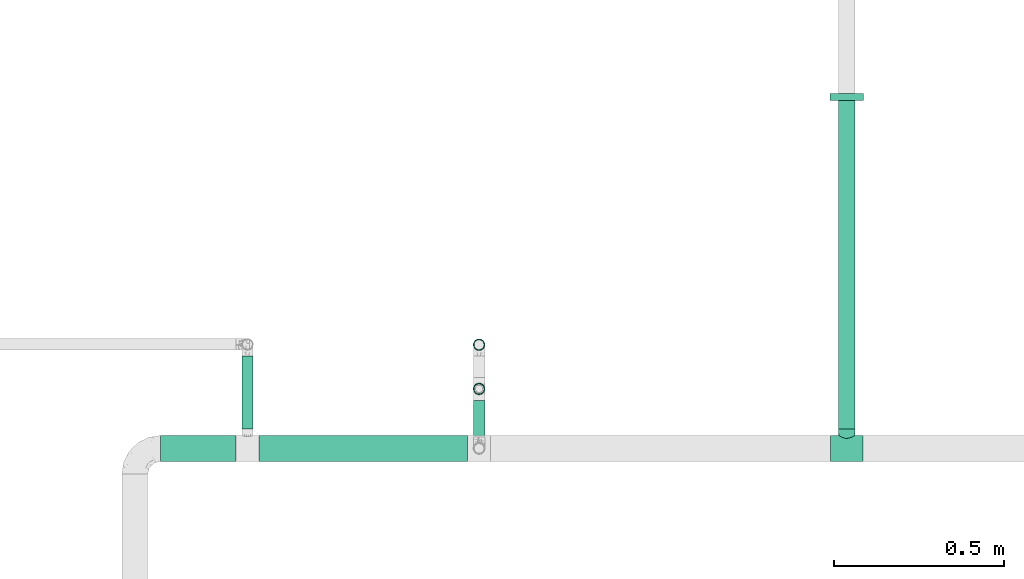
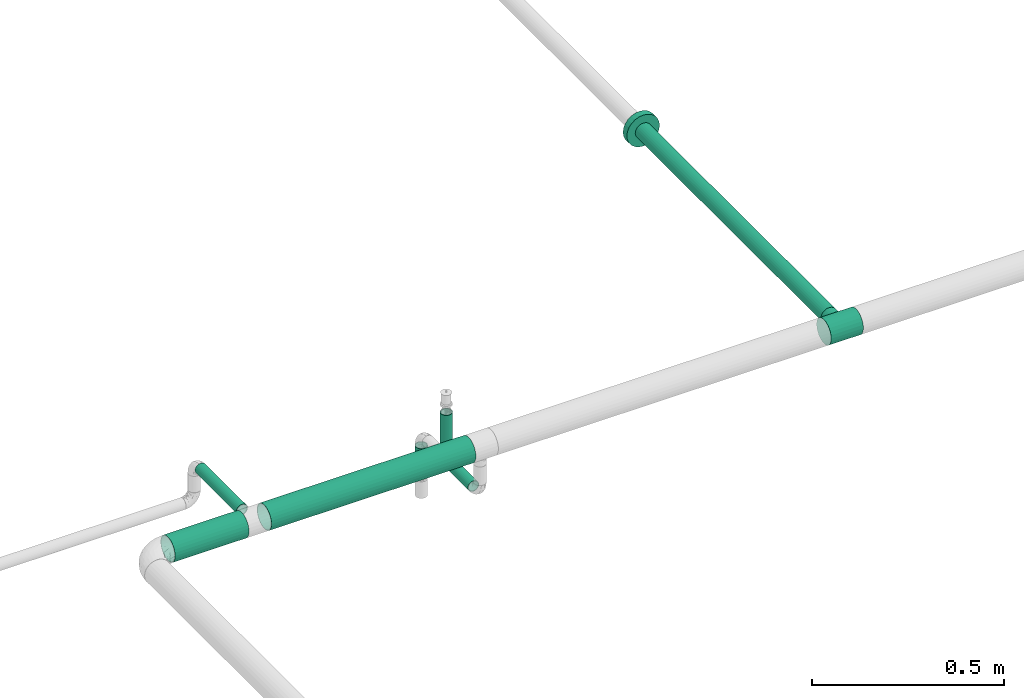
# One storey, part 12 of 157: 7 flow segments, 2 flow fittings.
"""IFC2X3 building model written with IfcOpenShell, lengths in millimetres."""

from ifc_helpers import new_model, entity, si_unit, converted_unit, derived_unit, direction, frame, origin_with_axes, origin_2d_with_axis, place, context, subcontext, project, spatial, hollow_circle, extrude, open_shell, surface_model, source, transform, mapped, type_object, element, save


model = new_model("IFC2X3")

# Units and contexts
model_context = context("Model", 3, precision=0.01, world=frame((0.0, 4.29681676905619e-09, 0.0)), true_north=direction((4.01073788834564e-13, 1.0)))
plan_context = context("Plan", 3, precision=0.01, world=frame((0.0, 4.29681676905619e-09, 0.0)), true_north=direction((4.01073788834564e-13, 1.0)))
body_context = subcontext(model_context, "Body", "Model", "MODEL_VIEW")
ifc_project = project(units=[converted_unit("PLANEANGLEUNIT", "DEGREE", entity("IfcPositiveLengthMeasure", 0.0174532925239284), si_unit("PLANEANGLEUNIT", "RADIAN"), dimensions=[0, 0, 0, 0, 0, 0, 0]), si_unit("AREAUNIT", "SQUARE_METRE"), si_unit("LENGTHUNIT", "METRE", prefix="MILLI"), si_unit("MASSUNIT", "GRAM", prefix="KILO"), si_unit("POWERUNIT", "WATT"), si_unit("PRESSUREUNIT", "PASCAL"), si_unit("FORCEUNIT", "NEWTON", prefix="KILO"), si_unit("ELECTRICCURRENTUNIT", "AMPERE"), si_unit("THERMODYNAMICTEMPERATUREUNIT", "DEGREE_CELSIUS"), si_unit("TIMEUNIT", "SECOND"), si_unit("VOLUMEUNIT", "CUBIC_METRE"), derived_unit("LINEARVELOCITYUNIT", [(si_unit("LENGTHUNIT", "METRE"), 1), (si_unit("TIMEUNIT", "SECOND"), -1)]), derived_unit("VOLUMETRICFLOWRATEUNIT", [(si_unit("VOLUMEUNIT", "CUBIC_METRE"), 1), (si_unit("TIMEUNIT", "SECOND"), -1)]), derived_unit("THERMALTRANSMITTANCEUNIT", [(si_unit("POWERUNIT", "WATT"), 1), (si_unit("THERMODYNAMICTEMPERATUREUNIT", "KELVIN"), -1), (si_unit("AREAUNIT", "SQUARE_METRE"), -1)])], contexts=[model_context, plan_context])

# Site, building, storey
site_placement = place(None, frame((0.0, -4.29681676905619e-09, 0.0), z_axis=(0.0, 0.0, 1.0), x_axis=(1.0, 0.0, 0.0)))
site = spatial("IfcSite", under=ifc_project, at=site_placement, CompositionType="ELEMENT")
building_placement = place(site_placement, frame((0.0, 4.29681676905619e-09, 0.0), z_axis=(0.0, 0.0, 1.0), x_axis=(1.0, 0.0, 0.0)))
building = spatial("IfcBuilding", under=site, at=building_placement, Name="mc-building", CompositionType="ELEMENT")
storey_placement = place(building_placement, frame((0.0, 0.0, 204000.0), z_axis=(0.0, 0.0, 1.0), x_axis=(1.0, 0.0, 0.0)))
storey = spatial("IfcBuildingStorey", under=building, at=storey_placement, Name="Nivå D", CompositionType="ELEMENT", Elevation=204000.0)

# Flow fittings
pipe_fitting_type_1 = type_object("IfcPipeFittingType", Name="magi_pipe_fe_tee_centric_90_NOR", PredefinedType="JUNCTION")
shared_shape_1 = source(origin_with_axes(), body_context, "Body", "SurfaceModel", [
    surface_model("IfcShellBasedSurfaceModel", [(-48.4, 9.86101, -36.80177), (-48.4, 0.0, -38.1), (-48.4, 36.80177, -9.86101), (-48.4, 19.05, -32.99557), (-48.4, 32.99557, -19.05), (-48.4, 26.94077, -26.94077), (-48.4, -38.1, 0.0), (-48.4, -19.05, -32.99557), (-48.4, -26.94077, -26.94077), (-48.4, -9.86101, -36.80177), (-48.4, -32.99557, -19.05), (-48.4, -36.80177, -9.86101), (-48.4, 38.1, 0.0), (-48.4, 32.99557, 19.05), (-48.4, 36.80177, 9.86101), (-48.4, -36.80177, 9.86101), (-48.4, 19.05, 32.99557), (-48.4, 26.94077, 26.94077), (-48.4, 9.86101, 36.80177), (-48.4, 0.0, 38.1), (-48.4, -26.94077, 26.94077), (-48.4, -32.99557, 19.05), (-48.4, -9.86101, 36.80177), (-48.4, -19.05, 32.99557), (48.4, 0.0, -38.1), (48.4, 9.86101, -36.80177), (48.4, 19.05, -32.99557), (48.4, 26.94077, -26.94077), (48.4, 32.99557, -19.05), (48.4, 36.80177, -9.86101), (48.4, -26.94077, -26.94077), (48.4, -38.1, 0.0), (48.4, -9.86101, -36.80177), (48.4, -19.05, -32.99557), (48.4, -32.99557, -19.05), (48.4, -36.80177, -9.86101), (48.4, 36.80177, 9.86101), (48.4, 32.99557, 19.05), (48.4, 19.05, 32.99557), (48.4, 0.0, 38.1), (48.4, 26.94077, 26.94077), (48.4, 9.86101, 36.80177), (48.4, -32.99557, 19.05), (48.4, -26.94077, 26.94077), (48.4, -36.80177, 9.86101), (48.4, -19.05, 32.99557), (48.4, -9.86101, 36.80177), (48.4, 38.1, 0.0), (22.67163, -37.14799, 8.46387), (24.2, -38.1, 0.0), (18.4612, -34.73882, 15.64686), (12.20123, -31.85656, 20.89904), (4.31503, -29.74205, 23.81219), (48.4, -34.89867, 14.4555), (-18.46661, -34.7417, 15.64047), (-48.4, -34.89867, 14.4555), (-24.2, -38.1, 0.0), (-22.67247, -37.1485, 8.46164), (-12.20341, -31.85739, 20.89777), (-4.32227, -29.7431, 23.81088), (12.20123, -31.85656, -20.89904), (-18.46661, -34.7417, -15.64047), (-48.4, -34.89867, -14.4555), (4.31503, -29.74205, -23.81219), (18.4612, -34.73882, -15.64686), (22.67163, -37.14799, -8.46387), (48.4, -34.89867, -14.4555), (-4.32227, -29.7431, -23.81088), (-12.20341, -31.85739, -20.89777), (-22.67247, -37.1485, -8.46164), (0.0, -57.15, -24.2), (6.26342, -57.15, -23.37541), (12.1, -57.15, -20.95781), (12.1, -57.15, 20.95781), (17.11198, -57.15, -17.11198), (20.95781, -57.15, -12.1), (23.37541, -57.15, -6.26342), (-12.1, -57.15, -20.95781), (-20.95781, -57.15, -12.1), (-17.11198, -57.15, -17.11198), (-6.26342, -57.15, -23.37541), (-23.37541, -57.15, -6.26342), (-24.2, -57.15, 0.0), (24.2, -57.15, 0.0), (23.37541, -57.15, 6.26342), (20.95781, -57.15, 12.1), (-23.37541, -57.15, 6.26342), (17.11198, -57.15, 17.11198), (6.26342, -57.15, 23.37541), (-17.11198, -57.15, 17.11198), (-20.95781, -57.15, 12.1), (-12.1, -57.15, 20.95781), (0.0, -57.15, 24.2), (-6.26342, -57.15, 23.37541), (-23.43623, -37.62425, 4.23082), (-0.00362, -29.74257, 23.81153), (8.25813, -30.7993, 22.35562), (23.43582, -37.62399, 4.23193), (23.43582, -37.62399, -4.23193), (-23.43623, -37.62425, -4.23082), (8.25813, -30.7993, -22.35562), (-0.00362, -29.74257, -23.81153)], [open_shell([[[0, 1, 2]], [[3, 0, 2]], [[2, 4, 5]], [[3, 2, 5]], [[6, 2, 1]], [[7, 8, 9]], [[8, 1, 9]], [[10, 11, 8]], [[6, 8, 11]], [[8, 6, 1]], [[6, 12, 2]], [[13, 14, 12]], [[13, 12, 15]], [[16, 13, 15]], [[17, 13, 16]], [[18, 16, 19]], [[20, 19, 21]], [[16, 15, 21]], [[22, 19, 23]], [[20, 23, 19]], [[21, 19, 16]], [[6, 15, 12]], [[24, 25, 26]], [[24, 26, 27]], [[27, 28, 29]], [[24, 27, 30]], [[31, 27, 29]], [[32, 30, 33]], [[32, 24, 30]], [[34, 31, 35]], [[31, 34, 30]], [[27, 31, 30]], [[29, 36, 31]], [[36, 37, 31]], [[31, 37, 38]], [[38, 39, 31]], [[38, 37, 40]], [[39, 38, 41]], [[42, 39, 43]], [[44, 31, 42]], [[45, 39, 46]], [[39, 45, 43]], [[39, 42, 31]], [[36, 29, 47]], [[31, 44, 48]], [[48, 49, 31]], [[44, 50, 48]], [[42, 43, 51]], [[51, 50, 42]], [[52, 51, 43]], [[43, 20, 52]], [[42, 50, 53]], [[54, 21, 55]], [[56, 57, 6]], [[15, 6, 57]], [[57, 54, 15]], [[58, 59, 20]], [[58, 21, 54]], [[21, 58, 20]], [[54, 55, 15]], [[59, 52, 20]], [[50, 44, 53]], [[43, 23, 20]], [[19, 46, 39]], [[22, 45, 46]], [[18, 39, 41]], [[37, 36, 14]], [[17, 38, 40]], [[13, 40, 37]], [[41, 38, 16]], [[12, 36, 47]], [[23, 45, 22]], [[22, 46, 19]], [[18, 19, 39]], [[41, 16, 18]], [[16, 38, 17]], [[13, 17, 40]], [[14, 13, 37]], [[36, 12, 14]], [[45, 23, 43]], [[12, 47, 29]], [[28, 27, 4]], [[2, 29, 28]], [[24, 32, 9]], [[0, 26, 25]], [[1, 25, 24]], [[26, 3, 27]], [[7, 32, 33]], [[4, 27, 5]], [[12, 29, 2]], [[2, 28, 4]], [[5, 27, 3]], [[26, 0, 3]], [[1, 0, 25]], [[9, 1, 24]], [[32, 7, 9]], [[33, 8, 7]], [[30, 34, 60]], [[61, 11, 62]], [[60, 63, 30]], [[34, 64, 60]], [[30, 63, 8]], [[35, 31, 65]], [[65, 64, 35]], [[49, 65, 31]], [[35, 64, 66]], [[67, 68, 8]], [[64, 34, 66]], [[10, 8, 68]], [[68, 61, 10]], [[67, 8, 63]], [[61, 69, 11]], [[69, 6, 11]], [[6, 69, 56]], [[61, 62, 10]], [[30, 8, 33]], [[70, 71, 72]], [[73, 70, 72]], [[74, 75, 76]], [[74, 76, 72]], [[73, 77, 70]], [[77, 78, 79]], [[77, 80, 70]], [[77, 81, 78]], [[81, 77, 82]], [[77, 73, 82]], [[83, 72, 76]], [[83, 84, 85]], [[83, 85, 73]], [[73, 86, 82]], [[73, 85, 87]], [[86, 73, 88]], [[86, 89, 90]], [[86, 88, 89]], [[91, 92, 93]], [[92, 91, 89]], [[88, 92, 89]], [[73, 72, 83]], [[86, 94, 82]], [[54, 90, 89]], [[86, 90, 57]], [[89, 91, 58]], [[94, 56, 82]], [[57, 90, 54]], [[58, 93, 59]], [[58, 54, 89]], [[92, 52, 95]], [[58, 91, 93]], [[73, 96, 88]], [[97, 83, 49]], [[86, 57, 94]], [[88, 52, 92]], [[48, 85, 84]], [[97, 48, 84]], [[85, 50, 87]], [[92, 59, 93]], [[96, 52, 88]], [[73, 51, 96]], [[73, 87, 51]], [[51, 87, 50]], [[50, 85, 48]], [[83, 97, 84]], [[95, 59, 92]], [[76, 98, 83]], [[64, 75, 74]], [[99, 69, 81]], [[76, 75, 65]], [[74, 72, 60]], [[98, 49, 83]], [[65, 75, 64]], [[71, 63, 100]], [[60, 64, 74]], [[70, 67, 101]], [[70, 63, 71]], [[100, 60, 72]], [[100, 72, 71]], [[76, 65, 98]], [[68, 77, 79]], [[68, 80, 77]], [[69, 78, 81]], [[79, 78, 61]], [[99, 82, 56]], [[67, 70, 80]], [[80, 68, 67]], [[101, 63, 70]], [[68, 79, 61]], [[61, 78, 69]], [[82, 99, 81]]])]),
])
flow_fitting_1_placement = place(storey_placement, frame((522583.28905, 416294.70476, 2690.0), z_axis=(0.0, -2.69999999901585e-05, -0.9999999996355), x_axis=(1.0, 0.0, 0.0)))
element("IfcFlowFitting", 1, at=flow_fitting_1_placement, inside=storey, type_object=pipe_fitting_type_1, Name="magi_pipe_fe_tee_centric_90_NOR", context=body_context, shape_type="MappedRepresentation", body=[
    mapped(shared_shape_1, transform((0.0, 0.0, 0.0), scale=1.0)),
])
pipe_fitting_type_2 = type_object("IfcPipeFittingType", Name="magi_pipe_fe_joint_001", PredefinedType="CONNECTOR")
shared_shape_2 = source(origin_with_axes(), body_context, "Body", "SurfaceModel", [
    surface_model("IfcShellBasedSurfaceModel", [(0.0, 0.0, -24.2), (0.0, -6.26342, -23.37541), (0.0, 6.26342, -23.37541), (0.0, 12.1, -20.95781), (0.0, 20.95781, -12.1), (0.0, -24.2, 0.0), (0.0, 17.11198, -17.11198), (0.0, -23.37541, 6.26342), (0.0, -12.1, -20.95781), (0.0, -17.11198, -17.11198), (0.0, -23.37541, -6.26342), (0.0, -20.95781, -12.1), (0.0, 23.37541, -6.26342), (0.0, 20.95781, 12.1), (0.0, 23.37541, 6.26342), (0.0, 24.2, 0.0), (0.0, 12.1, 20.95781), (0.0, -17.11198, 17.11198), (0.0, 17.11198, 17.11198), (0.0, 6.26342, 23.37541), (0.0, -20.95781, 12.1), (0.0, -6.26342, 23.37541), (0.0, 0.0, 24.2), (0.0, -12.1, 20.95781), (0.0, 24.6, -42.60845), (0.0, 12.7339, -47.52355), (0.0, 0.0, -49.2), (0.0, 34.78965, -34.78965), (0.0, 47.52355, -12.7339), (0.0, 42.60845, -24.6), (0.0, -12.7339, -47.52355), (0.0, -34.78965, -34.78965), (0.0, -24.6, -42.60845), (0.0, -42.60845, -24.6), (0.0, -47.52355, -12.7339), (0.0, -49.2, 0.0), (0.0, -47.52355, 12.7339), (0.0, 47.52355, 12.7339), (0.0, 49.2, 0.0), (0.0, 24.6, 42.60845), (0.0, 42.60845, 24.6), (0.0, 0.0, 49.2), (0.0, 34.78965, 34.78965), (0.0, 12.7339, 47.52355), (0.0, -34.78965, 34.78965), (0.0, -24.6, 42.60845), (0.0, -42.60845, 24.6), (0.0, -12.7339, 47.52355), (20.0, 0.0, -49.2), (20.0, 12.7339, -47.52355), (20.0, 24.6, -42.60845), (20.0, 34.78965, -34.78965), (20.0, 42.60845, -24.6), (20.0, 47.52355, -12.7339), (20.0, -12.7339, -47.52355), (20.0, -34.78965, -34.78965), (20.0, -24.6, -42.60845), (20.0, -47.52355, -12.7339), (20.0, -42.60845, -24.6), (20.0, -49.2, 0.0), (20.0, 49.2, 0.0), (20.0, 24.6, 42.60845), (20.0, 47.52355, 12.7339), (20.0, 42.60845, 24.6), (20.0, 0.0, 49.2), (20.0, 34.78965, 34.78965), (20.0, 12.7339, 47.52355), (20.0, -42.60845, 24.6), (20.0, -24.6, 42.60845), (20.0, -34.78965, 34.78965), (20.0, -47.52355, 12.7339), (20.0, -12.7339, 47.52355), (20.0, 6.26342, -23.37541), (20.0, -6.26342, -23.37541), (20.0, 0.0, -24.2), (20.0, 17.11198, -17.11198), (20.0, 12.1, -20.95781), (20.0, -23.37541, -6.26342), (20.0, 20.95781, -12.1), (20.0, 23.37541, -6.26342), (20.0, -17.11198, -17.11198), (20.0, -12.1, -20.95781), (20.0, -20.95781, -12.1), (20.0, -24.2, 0.0), (20.0, 24.2, 0.0), (20.0, 23.37541, 6.26342), (20.0, 20.95781, 12.1), (20.0, -23.37541, 6.26342), (20.0, -17.11198, 17.11198), (20.0, 12.1, 20.95781), (20.0, 17.11198, 17.11198), (20.0, 6.26342, 23.37541), (20.0, -20.95781, 12.1), (20.0, -12.1, 20.95781), (20.0, 0.0, 24.2), (20.0, -6.26342, 23.37541)], [open_shell([[[0, 1, 2]], [[3, 2, 4]], [[4, 2, 5]], [[6, 3, 4]], [[4, 5, 7]], [[8, 9, 1]], [[10, 1, 9]], [[11, 10, 9]], [[5, 1, 10]], [[5, 2, 1]], [[7, 12, 4]], [[13, 14, 15]], [[13, 15, 7]], [[16, 13, 17]], [[18, 13, 16]], [[19, 16, 17]], [[20, 17, 7]], [[17, 13, 7]], [[21, 22, 23]], [[17, 23, 22]], [[17, 22, 19]], [[12, 7, 15]], [[24, 25, 26]], [[27, 24, 26]], [[28, 29, 27]], [[30, 27, 26]], [[28, 27, 31]], [[32, 31, 30]], [[31, 27, 30]], [[33, 34, 31]], [[34, 28, 31]], [[34, 35, 36]], [[36, 28, 34]], [[37, 38, 39]], [[40, 37, 39]], [[41, 39, 38]], [[42, 40, 39]], [[43, 39, 41]], [[44, 45, 46]], [[36, 46, 45]], [[47, 41, 45]], [[38, 36, 45]], [[45, 41, 38]], [[28, 36, 38]], [[48, 49, 50]], [[48, 50, 51]], [[51, 52, 53]], [[48, 51, 54]], [[55, 51, 53]], [[54, 55, 56]], [[54, 51, 55]], [[55, 57, 58]], [[55, 53, 57]], [[59, 57, 53]], [[53, 60, 59]], [[61, 60, 62]], [[61, 62, 63]], [[60, 61, 64]], [[61, 63, 65]], [[64, 61, 66]], [[67, 68, 69]], [[68, 67, 70]], [[68, 64, 71]], [[68, 70, 60]], [[60, 64, 68]], [[60, 70, 59]], [[70, 35, 59]], [[67, 36, 70]], [[44, 69, 68]], [[67, 69, 46]], [[45, 68, 71]], [[67, 46, 36]], [[36, 35, 70]], [[47, 64, 41]], [[47, 45, 71]], [[44, 68, 45]], [[44, 46, 69]], [[64, 47, 71]], [[61, 43, 66]], [[65, 39, 61]], [[40, 63, 62]], [[65, 63, 42]], [[37, 62, 60]], [[61, 39, 43]], [[43, 41, 66]], [[37, 40, 62]], [[42, 63, 40]], [[42, 39, 65]], [[38, 37, 60]], [[66, 41, 64]], [[53, 38, 60]], [[52, 28, 53]], [[27, 51, 50]], [[52, 51, 29]], [[24, 50, 49]], [[52, 29, 28]], [[28, 38, 53]], [[25, 48, 26]], [[25, 24, 49]], [[27, 50, 24]], [[27, 29, 51]], [[48, 25, 49]], [[56, 30, 54]], [[55, 32, 56]], [[33, 58, 57]], [[55, 58, 31]], [[34, 57, 59]], [[56, 32, 30]], [[30, 26, 54]], [[34, 33, 57]], [[31, 58, 33]], [[31, 32, 55]], [[35, 34, 59]], [[54, 26, 48]], [[72, 73, 74]], [[75, 72, 76]], [[77, 72, 78]], [[78, 72, 75]], [[77, 78, 79]], [[73, 80, 81]], [[80, 73, 82]], [[72, 82, 73]], [[72, 77, 82]], [[79, 83, 77]], [[79, 84, 83]], [[84, 85, 86]], [[87, 84, 86]], [[88, 86, 89]], [[89, 86, 90]], [[88, 89, 91]], [[87, 88, 92]], [[87, 86, 88]], [[93, 94, 95]], [[94, 93, 88]], [[91, 94, 88]], [[84, 87, 83]], [[87, 5, 83]], [[92, 7, 87]], [[17, 88, 93]], [[92, 88, 20]], [[23, 93, 95]], [[92, 20, 7]], [[7, 5, 87]], [[21, 94, 22]], [[21, 23, 95]], [[17, 93, 23]], [[17, 20, 88]], [[94, 21, 95]], [[89, 19, 91]], [[90, 16, 89]], [[13, 86, 85]], [[90, 86, 18]], [[14, 85, 84]], [[89, 16, 19]], [[19, 22, 91]], [[14, 13, 85]], [[18, 86, 13]], [[18, 16, 90]], [[15, 14, 84]], [[91, 22, 94]], [[79, 15, 84]], [[78, 12, 79]], [[6, 75, 76]], [[78, 75, 4]], [[3, 76, 72]], [[78, 4, 12]], [[12, 15, 79]], [[2, 74, 0]], [[2, 3, 72]], [[6, 76, 3]], [[6, 4, 75]], [[74, 2, 72]], [[81, 1, 73]], [[80, 8, 81]], [[11, 82, 77]], [[80, 82, 9]], [[10, 77, 83]], [[81, 8, 1]], [[1, 0, 73]], [[10, 11, 77]], [[9, 82, 11]], [[9, 8, 80]], [[5, 10, 83]], [[73, 0, 74]]])]),
])
flow_fitting_2_placement = place(storey_placement, frame((522583.28905, 417320.18056, 2689.97839999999), z_axis=(0.0, 1.49999999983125e-05, 0.9999999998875), x_axis=(0.0, 0.9999999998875, -1.49999999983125e-05)))
element("IfcFlowFitting", 2, at=flow_fitting_2_placement, inside=storey, type_object=pipe_fitting_type_2, Name="magi_pipe_fe_joint_001", context=body_context, shape_type="MappedRepresentation", body=[
    mapped(shared_shape_2, transform((0.0, 0.0, 0.0), scale=1.0)),
])

# Flow segments
pipe_segment_type = type_object("IfcPipeSegmentType", Name="Stålrør normaltykke", PredefinedType="RIGIDSEGMENT")
shared_shape_3 = source(origin_with_axes(), body_context, "Body", "SweptSolid", [
    extrude(hollow_circle(Radius=16.9, WallThickness=2.0, at=origin_2d_with_axis()), frame((0.0, 0.0, 0.0), z_axis=(1.0, 0.0, 0.0), x_axis=(0.0, 1.0, 0.0)), (0.0, 0.0, 1.0), 125.3),
])
flow_segment_1_placement = place(storey_placement, frame((521500.0, 416470.0, 2690.64799999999), z_axis=(0.0, 1.0, 0.0), x_axis=(0.0, 0.0, -1.0)))
element("IfcFlowSegment", 3, at=flow_segment_1_placement, inside=storey, type_object=pipe_segment_type, Name="Stålrør normaltykke", context=body_context, shape_type="MappedRepresentation", body=[
    mapped(shared_shape_3, transform((0.0, 0.0, 0.0), scale=1.0)),
])
shared_shape_4 = source(origin_with_axes(), body_context, "Body", "SweptSolid", [
    extrude(hollow_circle(Radius=16.9, WallThickness=2.0, at=origin_2d_with_axis()), frame((0.0, 0.0, 0.0), z_axis=(1.0, 0.0, 0.0), x_axis=(0.0, 1.0, 0.0)), (0.0, 0.0, 1.0), 96.8),
])
flow_segment_2_placement = place(storey_placement, frame((521500.0, 416600.0, 2409.35200000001), z_axis=(0.0, -1.0, 0.0), x_axis=(0.0, 0.0, 1.0)))
element("IfcFlowSegment", 4, at=flow_segment_2_placement, inside=storey, type_object=pipe_segment_type, Name="Stålrør normaltykke", context=body_context, shape_type="MappedRepresentation", body=[
    mapped(shared_shape_4, transform((0.0, 0.0, 0.0), scale=1.0, scale2=1.0, scale3=1.0, uniform=False)),
])
shared_shape_5 = source(origin_with_axes(), body_context, "Body", "SweptSolid", [
    extrude(hollow_circle(Radius=38.0, WallThickness=2.0, at=origin_2d_with_axis()), frame((0.0, 0.0, 0.0), z_axis=(1.0, 0.0, 0.0), x_axis=(0.0, 1.0, 0.0)), (0.0, 0.0, 1.0), 222.3),
])
flow_segment_3_placement = place(storey_placement, frame((520783.75946, 416294.70476, 2690.0), z_axis=(0.0, 0.0, 1.0), x_axis=(-1.0, 0.0, 0.0)))
element("IfcFlowSegment", 5, at=flow_segment_3_placement, inside=storey, type_object=pipe_segment_type, Name="Stålrør normaltykke", context=body_context, shape_type="MappedRepresentation", body=[
    mapped(shared_shape_5, transform((0.0, 0.0, 0.0), scale=1.0)),
])
shared_shape_6 = source(origin_with_axes(), body_context, "Body", "SweptSolid", [
    extrude(hollow_circle(Radius=24.1, WallThickness=2.0, at=origin_2d_with_axis()), frame((0.0, 0.0, 0.0), z_axis=(1.0, 0.0, 0.0), x_axis=(0.0, 1.0, 0.0)), (0.0, 0.0, 1.0), 968.3),
])
flow_segment_4_placement = place(storey_placement, frame((522583.28905, 416351.85476, 2689.99871000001), z_axis=(0.0, 1.49999999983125e-05, 0.9999999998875), x_axis=(0.0, 0.9999999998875, -1.49999999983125e-05)))
element("IfcFlowSegment", 6, at=flow_segment_4_placement, inside=storey, type_object=pipe_segment_type, Name="Stålrør normaltykke", context=body_context, shape_type="MappedRepresentation", body=[
    mapped(shared_shape_6, transform((0.0, 0.0, 0.0), scale=1.0)),
])
shared_shape_7 = source(origin_with_axes(), body_context, "Body", "SweptSolid", [
    extrude(hollow_circle(Radius=16.9, WallThickness=2.0, at=origin_2d_with_axis()), frame((0.0, 0.0, 0.0), z_axis=(1.0, 0.0, 0.0), x_axis=(0.0, 1.0, 0.0)), (0.0, 0.0, 1.0), 107.7),
])
flow_segment_5_placement = place(storey_placement, frame((521500.0, 416436.2, 2540.0), z_axis=(0.0, 0.0, 1.0), x_axis=(0.0, -1.0, 0.0)))
element("IfcFlowSegment", 7, at=flow_segment_5_placement, inside=storey, type_object=pipe_segment_type, Name="Stålrør normaltykke", context=body_context, shape_type="MappedRepresentation", body=[
    mapped(shared_shape_7, transform((0.0, 0.0, 0.0), scale=1.0)),
])
shared_shape_8 = source(origin_with_axes(), body_context, "Body", "SweptSolid", [
    extrude(hollow_circle(Radius=16.9, WallThickness=2.0, at=origin_2d_with_axis()), frame((0.0, 0.0, 0.0), z_axis=(1.0, 0.0, 0.0), x_axis=(0.0, 1.0, 0.0)), (0.0, 0.0, 1.0), 215.6),
])
flow_segment_6_placement = place(storey_placement, frame((520817.55946, 416351.85476, 2690.0), z_axis=(0.0, 0.0, 1.0), x_axis=(0.0, 1.0, 0.0)))
element("IfcFlowSegment", 8, at=flow_segment_6_placement, inside=storey, type_object=pipe_segment_type, Name="Stålrør normaltykke", context=body_context, shape_type="MappedRepresentation", body=[
    mapped(shared_shape_8, transform((0.0, 0.0, 0.0), scale=1.0)),
])
shared_shape_9 = source(origin_with_axes(), body_context, "Body", "SweptSolid", [
    extrude(hollow_circle(Radius=38.0, WallThickness=2.0, at=origin_2d_with_axis()), frame((0.0, 0.0, 0.0), z_axis=(1.0, 0.0, 0.0), x_axis=(0.0, 1.0, 0.0)), (0.0, 0.0, 1.0), 614.8),
])
flow_segment_7_placement = place(storey_placement, frame((521466.2, 416294.70476, 2690.0), z_axis=(0.0, 0.0, 1.0), x_axis=(-1.0, 0.0, 0.0)))
element("IfcFlowSegment", 9, at=flow_segment_7_placement, inside=storey, type_object=pipe_segment_type, Name="Stålrør normaltykke", context=body_context, shape_type="MappedRepresentation", body=[
    mapped(shared_shape_9, transform((0.0, 0.0, 0.0), scale=1.0)),
])

save(model, "model.ifc")
